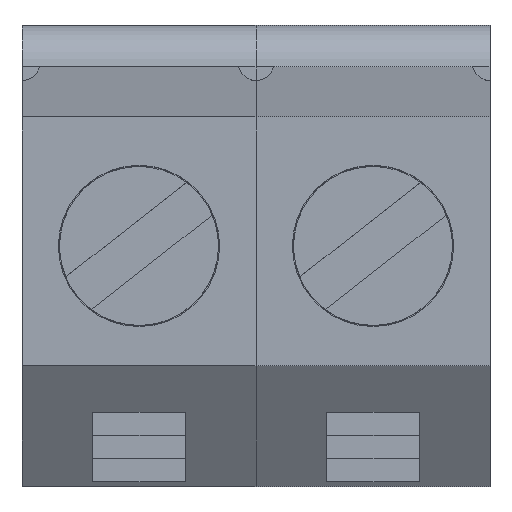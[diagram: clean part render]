
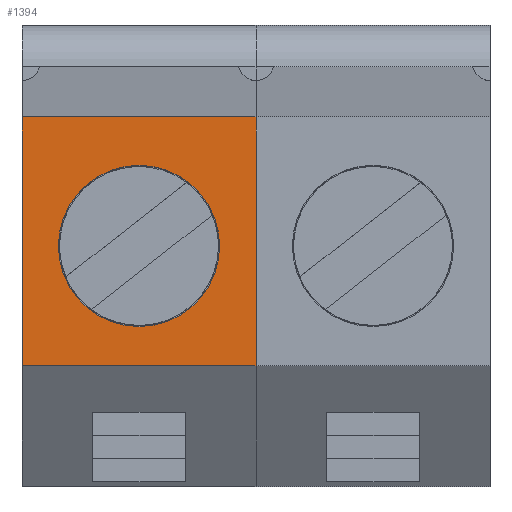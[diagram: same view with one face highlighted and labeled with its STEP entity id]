
A CAD part, top view. The second image highlights one B-rep face of the part: STEP entity #1394.
In plain terms, the highlighted planar face has unit normal (0, 0, 1).
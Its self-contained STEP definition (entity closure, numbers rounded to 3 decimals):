
#126 = PLANE('',#127);
#127 = AXIS2_PLACEMENT_3D('',#128,#129,#130);
#128 = CARTESIAN_POINT('',(-2.54,0.393,8.936));
#129 = DIRECTION('',(-1.,-0.,-0.));
#130 = DIRECTION('',(0.,0.,-1.));
#181 = PLANE('',#182);
#182 = AXIS2_PLACEMENT_3D('',#183,#184,#185);
#183 = CARTESIAN_POINT('',(0.,-3.3,9.5));
#184 = DIRECTION('',(0.,-0.961,0.278));
#185 = DIRECTION('',(0.,-0.278,-0.961));
#224 = VERTEX_POINT('',#225);
#225 = CARTESIAN_POINT('',(-2.54,-2.,14.));
#246 = EDGE_CURVE('',#247,#224,#249,.T.);
#247 = VERTEX_POINT('',#248);
#248 = CARTESIAN_POINT('',(-2.54,3.4,14.));
#249 = SURFACE_CURVE('',#250,(#254,#261),.PCURVE_S1.);
#250 = LINE('',#251,#252);
#251 = CARTESIAN_POINT('',(-2.54,3.4,14.));
#252 = VECTOR('',#253,1.);
#253 = DIRECTION('',(0.,-1.,0.));
#254 = PCURVE('',#126,#255);
#255 = DEFINITIONAL_REPRESENTATION('',(#256),#260);
#256 = LINE('',#257,#258);
#257 = CARTESIAN_POINT('',(-5.064,-3.007));
#258 = VECTOR('',#259,1.);
#259 = DIRECTION('',(0.,1.));
#260 = ( GEOMETRIC_REPRESENTATION_CONTEXT(2) 
PARAMETRIC_REPRESENTATION_CONTEXT() REPRESENTATION_CONTEXT('2D SPACE',''
  ) );
#261 = PCURVE('',#262,#267);
#262 = PLANE('',#263);
#263 = AXIS2_PLACEMENT_3D('',#264,#265,#266);
#264 = CARTESIAN_POINT('',(0.,0.7,14.));
#265 = DIRECTION('',(0.,0.,1.));
#266 = DIRECTION('',(1.,0.,0.));
#267 = DEFINITIONAL_REPRESENTATION('',(#268),#272);
#268 = LINE('',#269,#270);
#269 = CARTESIAN_POINT('',(-2.54,2.7));
#270 = VECTOR('',#271,1.);
#271 = DIRECTION('',(0.,-1.));
#272 = ( GEOMETRIC_REPRESENTATION_CONTEXT(2) 
PARAMETRIC_REPRESENTATION_CONTEXT() REPRESENTATION_CONTEXT('2D SPACE',''
  ) );
#290 = PLANE('',#291);
#291 = AXIS2_PLACEMENT_3D('',#292,#293,#294);
#292 = CARTESIAN_POINT('',(0.,4.2,9.5));
#293 = DIRECTION('',(0.,0.985,0.175)
  );
#294 = DIRECTION('',(0.,-0.175,0.985));
#792 = VERTEX_POINT('',#793);
#793 = CARTESIAN_POINT('',(2.54,-2.,14.));
#814 = EDGE_CURVE('',#224,#792,#815,.T.);
#815 = SURFACE_CURVE('',#816,(#820,#827),.PCURVE_S1.);
#816 = LINE('',#817,#818);
#817 = CARTESIAN_POINT('',(-2.54,-2.,14.));
#818 = VECTOR('',#819,1.);
#819 = DIRECTION('',(1.,0.,0.));
#820 = PCURVE('',#181,#821);
#821 = DEFINITIONAL_REPRESENTATION('',(#822),#826);
#822 = LINE('',#823,#824);
#823 = CARTESIAN_POINT('',(-4.684,-2.54));
#824 = VECTOR('',#825,1.);
#825 = DIRECTION('',(0.,1.));
#826 = ( GEOMETRIC_REPRESENTATION_CONTEXT(2) 
PARAMETRIC_REPRESENTATION_CONTEXT() REPRESENTATION_CONTEXT('2D SPACE',''
  ) );
#827 = PCURVE('',#262,#828);
#828 = DEFINITIONAL_REPRESENTATION('',(#829),#833);
#829 = LINE('',#830,#831);
#830 = CARTESIAN_POINT('',(-2.54,-2.7));
#831 = VECTOR('',#832,1.);
#832 = DIRECTION('',(1.,0.));
#833 = ( GEOMETRIC_REPRESENTATION_CONTEXT(2) 
PARAMETRIC_REPRESENTATION_CONTEXT() REPRESENTATION_CONTEXT('2D SPACE',''
  ) );
#1290 = EDGE_CURVE('',#1291,#247,#1293,.T.);
#1291 = VERTEX_POINT('',#1292);
#1292 = CARTESIAN_POINT('',(2.54,3.4,14.));
#1293 = SURFACE_CURVE('',#1294,(#1298,#1305),.PCURVE_S1.);
#1294 = LINE('',#1295,#1296);
#1295 = CARTESIAN_POINT('',(2.54,3.4,14.));
#1296 = VECTOR('',#1297,1.);
#1297 = DIRECTION('',(-1.,0.,0.));
#1298 = PCURVE('',#290,#1299);
#1299 = DEFINITIONAL_REPRESENTATION('',(#1300),#1304);
#1300 = LINE('',#1301,#1302);
#1301 = CARTESIAN_POINT('',(4.571,2.54));
#1302 = VECTOR('',#1303,1.);
#1303 = DIRECTION('',(0.,-1.));
#1304 = ( GEOMETRIC_REPRESENTATION_CONTEXT(2) 
PARAMETRIC_REPRESENTATION_CONTEXT() REPRESENTATION_CONTEXT('2D SPACE',''
  ) );
#1305 = PCURVE('',#262,#1306);
#1306 = DEFINITIONAL_REPRESENTATION('',(#1307),#1311);
#1307 = LINE('',#1308,#1309);
#1308 = CARTESIAN_POINT('',(2.54,2.7));
#1309 = VECTOR('',#1310,1.);
#1310 = DIRECTION('',(-1.,0.));
#1311 = ( GEOMETRIC_REPRESENTATION_CONTEXT(2) 
PARAMETRIC_REPRESENTATION_CONTEXT() REPRESENTATION_CONTEXT('2D SPACE',''
  ) );
#1394 = ADVANCED_FACE('',(#1395,#1426),#262,.T.);
#1395 = FACE_BOUND('',#1396,.T.);
#1396 = EDGE_LOOP('',(#1397,#1423,#1424,#1425));
#1397 = ORIENTED_EDGE('',*,*,#1398,.T.);
#1398 = EDGE_CURVE('',#792,#1291,#1399,.T.);
#1399 = SURFACE_CURVE('',#1400,(#1404,#1411),.PCURVE_S1.);
#1400 = LINE('',#1401,#1402);
#1401 = CARTESIAN_POINT('',(2.54,-2.,14.));
#1402 = VECTOR('',#1403,1.);
#1403 = DIRECTION('',(0.,1.,0.));
#1404 = PCURVE('',#262,#1405);
#1405 = DEFINITIONAL_REPRESENTATION('',(#1406),#1410);
#1406 = LINE('',#1407,#1408);
#1407 = CARTESIAN_POINT('',(2.54,-2.7));
#1408 = VECTOR('',#1409,1.);
#1409 = DIRECTION('',(0.,1.));
#1410 = ( GEOMETRIC_REPRESENTATION_CONTEXT(2) 
PARAMETRIC_REPRESENTATION_CONTEXT() REPRESENTATION_CONTEXT('2D SPACE',''
  ) );
#1411 = PCURVE('',#1412,#1417);
#1412 = PLANE('',#1413);
#1413 = AXIS2_PLACEMENT_3D('',#1414,#1415,#1416);
#1414 = CARTESIAN_POINT('',(5.08,0.7,14.));
#1415 = DIRECTION('',(0.,0.,1.));
#1416 = DIRECTION('',(1.,0.,0.));
#1417 = DEFINITIONAL_REPRESENTATION('',(#1418),#1422);
#1418 = LINE('',#1419,#1420);
#1419 = CARTESIAN_POINT('',(-2.54,-2.7));
#1420 = VECTOR('',#1421,1.);
#1421 = DIRECTION('',(0.,1.));
#1422 = ( GEOMETRIC_REPRESENTATION_CONTEXT(2) 
PARAMETRIC_REPRESENTATION_CONTEXT() REPRESENTATION_CONTEXT('2D SPACE',''
  ) );
#1423 = ORIENTED_EDGE('',*,*,#1290,.T.);
#1424 = ORIENTED_EDGE('',*,*,#246,.T.);
#1425 = ORIENTED_EDGE('',*,*,#814,.T.);
#1426 = FACE_BOUND('',#1427,.T.);
#1427 = EDGE_LOOP('',(#1428));
#1428 = ORIENTED_EDGE('',*,*,#1429,.T.);
#1429 = EDGE_CURVE('',#1430,#1430,#1432,.T.);
#1430 = VERTEX_POINT('',#1431);
#1431 = CARTESIAN_POINT('',(1.75,0.6,14.));
#1432 = SURFACE_CURVE('',#1433,(#1438,#1449),.PCURVE_S1.);
#1433 = CIRCLE('',#1434,1.75);
#1434 = AXIS2_PLACEMENT_3D('',#1435,#1436,#1437);
#1435 = CARTESIAN_POINT('',(0.,0.6,14.));
#1436 = DIRECTION('',(0.,0.,-1.));
#1437 = DIRECTION('',(1.,0.,0.));
#1438 = PCURVE('',#262,#1439);
#1439 = DEFINITIONAL_REPRESENTATION('',(#1440),#1448);
#1440 = ( BOUNDED_CURVE() B_SPLINE_CURVE(2,(#1441,#1442,#1443,#1444,
#1445,#1446,#1447),.UNSPECIFIED.,.T.,.F.) B_SPLINE_CURVE_WITH_KNOTS((1,2
    ,2,2,2,1),(-2.094,0.,2.094,4.189,
6.283,8.378),.UNSPECIFIED.) CURVE() 
GEOMETRIC_REPRESENTATION_ITEM() RATIONAL_B_SPLINE_CURVE((1.,0.5,1.,0.5,
1.,0.5,1.)) REPRESENTATION_ITEM('') );
#1441 = CARTESIAN_POINT('',(1.75,-0.1));
#1442 = CARTESIAN_POINT('',(1.75,-3.131));
#1443 = CARTESIAN_POINT('',(-0.875,-1.616));
#1444 = CARTESIAN_POINT('',(-3.5,-0.1));
#1445 = CARTESIAN_POINT('',(-0.875,1.416));
#1446 = CARTESIAN_POINT('',(1.75,2.931));
#1447 = CARTESIAN_POINT('',(1.75,-0.1));
#1448 = ( GEOMETRIC_REPRESENTATION_CONTEXT(2) 
PARAMETRIC_REPRESENTATION_CONTEXT() REPRESENTATION_CONTEXT('2D SPACE',''
  ) );
#1449 = PCURVE('',#1450,#1455);
#1450 = CYLINDRICAL_SURFACE('',#1451,1.75);
#1451 = AXIS2_PLACEMENT_3D('',#1452,#1453,#1454);
#1452 = CARTESIAN_POINT('',(0.,0.6,11.5));
#1453 = DIRECTION('',(-0.,-0.,-1.));
#1454 = DIRECTION('',(1.,0.,0.));
#1455 = DEFINITIONAL_REPRESENTATION('',(#1456),#1460);
#1456 = LINE('',#1457,#1458);
#1457 = CARTESIAN_POINT('',(-6.283,-2.5));
#1458 = VECTOR('',#1459,1.);
#1459 = DIRECTION('',(1.,-0.));
#1460 = ( GEOMETRIC_REPRESENTATION_CONTEXT(2) 
PARAMETRIC_REPRESENTATION_CONTEXT() REPRESENTATION_CONTEXT('2D SPACE',''
  ) );
